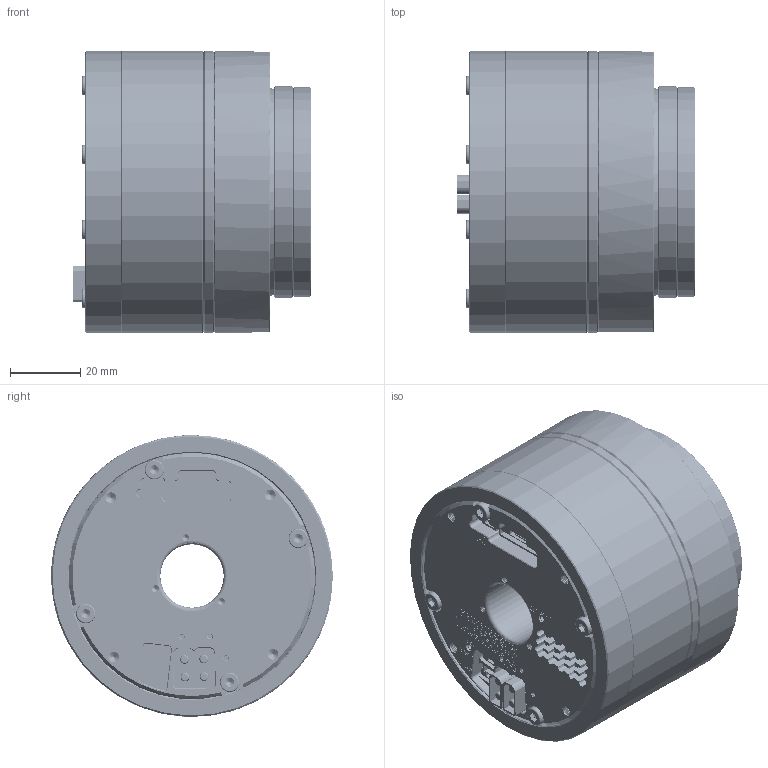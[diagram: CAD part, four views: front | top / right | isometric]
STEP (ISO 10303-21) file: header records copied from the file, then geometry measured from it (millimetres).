
FILE_DESCRIPTION (( 'STEP AP203' ), '1' );
FILE_NAME ('eRob80H｡ﾁ｡ﾁI-XX-18CX_V6_MC2E.DX.XX.STEP', '2024-11-12T12:31:26', ( 'Windows User' ), ( 'P R C' ), 'SwSTEP 2.0', 'SolidWorks 2021', '' );
FILE_SCHEMA (( 'CONFIG_CONTROL_DESIGN' ));
Length unit declared in the file: millimetre
Products named in the file (1): eRob80H××I-XX-18CX_V6_MC2E.DX.XX
Bounding box: 67.5 x 80 x 80 mm (x, y, z)
Volume: 272740.3 mm3; surface area: 42028.2 mm2
Topology: 1 solids, 5 shells, 3700 faces, 9943 edges, 6546 vertices
Faces by surface type: plane 2181, cylinder 960, bspline 436, cone 89, torus 34
Full cylindrical faces by diameter (mm): 1.5 x2, 1.6 x15, 2 x20, 2.1 x2, 2.5 x40, 3 x484, 3.2 x20, 4.5 x24, 4.8 x12, 5 x12, 5.5 x4, 18 x1, 59.6 x1, 60 x1, 68 x1, 70 x1, 79.8 x1, 80 x3
Entity records: 187919 total; most frequent: CARTESIAN_POINT 113811, ORIENTED_EDGE 15988, DIRECTION 13431, EDGE_CURVE 7994, VECTOR 5841, LINE 5841, VERTEX_POINT 5369, AXIS2_PLACEMENT_3D 3795
